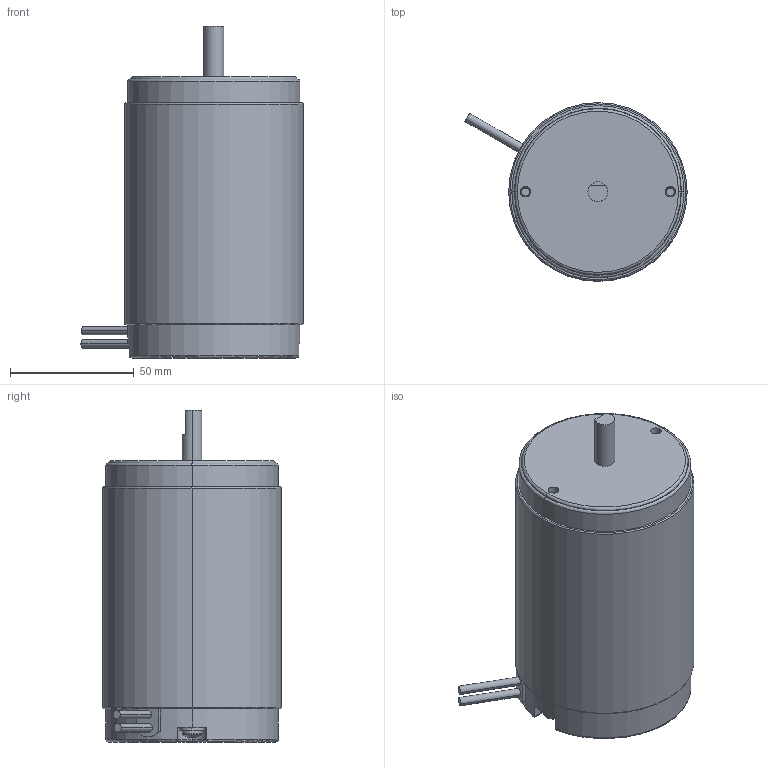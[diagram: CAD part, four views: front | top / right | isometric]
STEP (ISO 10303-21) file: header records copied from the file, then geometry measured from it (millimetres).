
FILE_DESCRIPTION (( 'STEP AP214' ), '1' );
FILE_NAME ('07.M6551-3D.STEP', '2017-06-11T12:59:02', ( 'Sky123.Org' ), ( 'Sky123.Org' ), 'SwSTEP 2.0', 'SolidWorks 2015', '' );
FILE_SCHEMA (( 'AUTOMOTIVE_DESIGN' ));
Length unit declared in the file: millimetre
Products named in the file (4): M6551; 07.M6551-3D; flat washer narrow_am_B18.22M - Plain washer, 4 mm, narrow; pan head cross recess screw_iso_ISO 7045 - M4 x 40 - Z --- 40S
Assembly tree (5 placements, depth 2):
  07.M6551-3D
    M6551
    pan head cross recess screw_iso_ISO 7045 - M4 x 40 - Z --- 40S  x2
    flat washer narrow_am_B18.22M - Plain washer, 4 mm, narrow  x2
Bounding box: 89.68 x 72 x 134 mm (x, y, z)
Volume: 453366.6 mm3; surface area: 39432.7 mm2
Topology: 5 solids, 5 shells, 813 faces, 2125 edges, 1327 vertices
Faces by surface type: cone 464, cylinder 264, plane 60, torus 21, sphere 4
Entity records: 14244 total; most frequent: DIRECTION 2692, CARTESIAN_POINT 2354, ORIENTED_EDGE 2250, AXIS2_PLACEMENT_3D 1137, EDGE_CURVE 1125, VERTEX_POINT 704, CIRCLE 694, EDGE_LOOP 449
